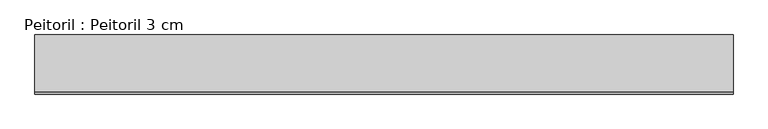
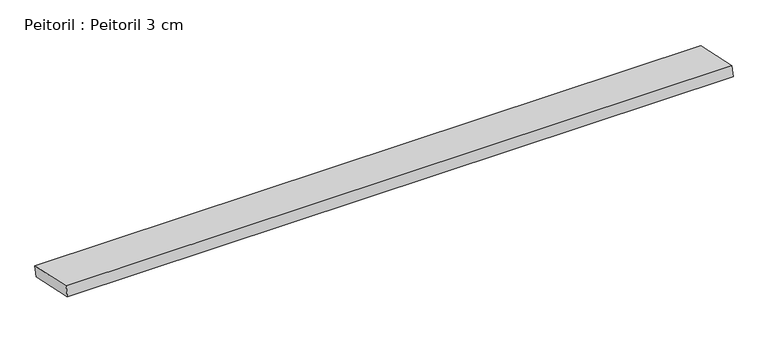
"""IFC4 building model written with IfcOpenShell, lengths in millimetres: proxy geometry, Peitoril : Peitoril 3 cm."""

from ifc_helpers import new_model, si_unit, frame, origin, place, context, project, spatial, polyline, outline, extrude, source, transform, mapped, element, save


def peitoril_peitoril_3_cm_188c827f(model_context):
    return source(origin(), model_context, "Body", "SweptSolid", [
        extrude(outline(polyline([(0.0, -158.0245115), (0.0, 0.0), (1900.0, 0.0), (1900.0, -158.0245115), (0.0, -158.0245115)])), frame((1111.81445, -32.3195188, 880.655572), z_axis=(0.0, 0.20791169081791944, 0.9781476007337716), x_axis=(-1.0, 0.0, 0.0)), (0.0, 0.0, 1.0), 30.0),
    ])


if __name__ == "__main__":
    model = new_model("IFC4")
    model_context = context("Model", 3, world=origin())
    ifc_project = project(units=[si_unit("LENGTHUNIT", "METRE", prefix="MILLI")], contexts=[model_context])
    site = spatial("IfcSite", under=ifc_project)
    building = spatial("IfcBuilding", under=site)
    placement = place(None, origin())
    peitoril_peitoril_3_cm_shape = peitoril_peitoril_3_cm_188c827f(model_context)
    element("IfcBuildingElementProxy", 1, Name="Peitoril : Peitoril 3 cm", ObjectType="Peitoril : Peitoril 3 cm", at=placement, inside=building, context=model_context, shape_type="MappedRepresentation", body=[
        mapped(peitoril_peitoril_3_cm_shape, transform((0.0, 0.0, 0.0), x_axis=(1.0, 0.0, 0.0), y_axis=(0.0, 1.0, 0.0), z_axis=(0.0, 0.0, 1.0))),
    ])
    save(model, "model.ifc")
